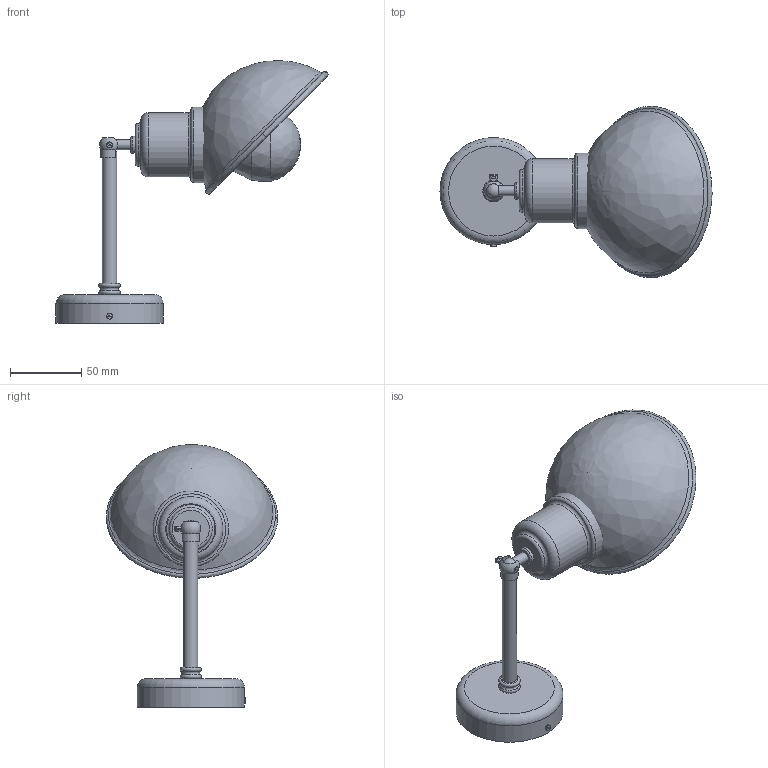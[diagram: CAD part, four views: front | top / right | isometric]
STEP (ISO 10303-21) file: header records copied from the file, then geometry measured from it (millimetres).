
FILE_DESCRIPTION(/* description */ (''),/* implementation_level */ '2;1');
FILE_NAME(/* name */ 'C:\Users\Patryk\Desktop\Modele MOSIĄDZ\T55\KINKIET T55.stp',/* time_stamp */ '2019-12-15T01:30:39+01:00',/* author */ ('Patryk'),/* organization */ (''),/* preprocessor_version */ 'ST-DEVELOPER v17',/* originating_system */ 'Autodesk Inventor 2019',/* authorisation */ '');
FILE_SCHEMA (('AUTOMOTIVE_DESIGN { 1 0 10303 214 3 1 1 }'));
Length unit declared in the file: millimetre
Products named in the file (13): t55; do ściany; wtyczka; part1; kulka; tulejka; Zespół3; Część5; Część6; cypel; motyl; sruba; zarowka
Assembly tree (13 placements, depth 3):
  t55
    do ściany
    wtyczka
    part1
      kulka
      tulejka
    Zespół3
      Część5
      Część6
    cypel
    sruba  x2
    motyl
    zarowka
Bounding box: 190.47 x 119.85 x 183.97 mm (x, y, z)
Volume: 66263.4 mm3; surface area: 91502.9 mm2
Topology: 15 solids, 17 shells, 750 faces, 1792 edges, 1082 vertices
Faces by surface type: cone 357, torus 209, plane 62, bspline 60, cylinder 56, sphere 6
Full cylindrical faces by diameter (mm): 0.186 x2, 0.198 x1, 0.31 x2, 0.62 x2, 2.5 x3, 3.5 x1, 4 x4, 6.661 x1, 7 x2, 9.694 x1, 10 x2, 10.047 x1, 12 x3, 14.153 x1, 21.668 x4, 23.064 x5, 43 x1, 45 x1, 51 x1, 53 x1, 70 x1, 75 x1
Entity records: 31923 total; most frequent: CARTESIAN_POINT 13877, DIRECTION 4100, ORIENTED_EDGE 3537, EDGE_CURVE 1771, AXIS2_PLACEMENT_3D 1771, VERTEX_POINT 1070, CIRCLE 1056, EDGE_LOOP 770
